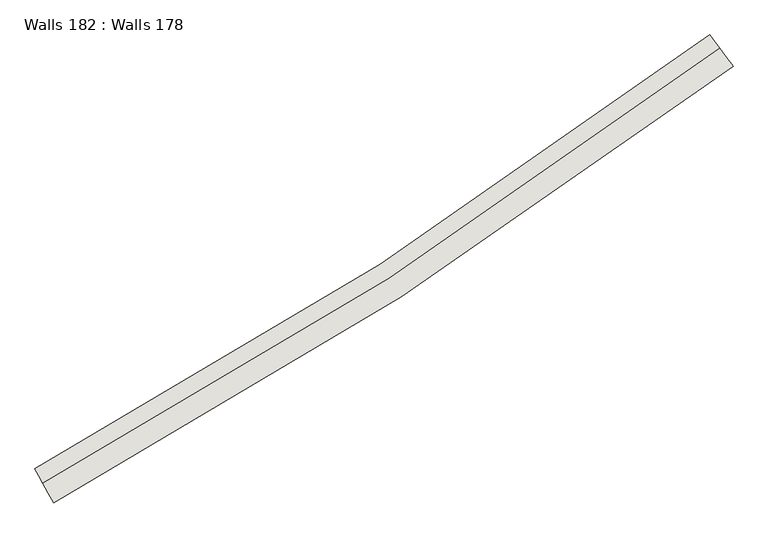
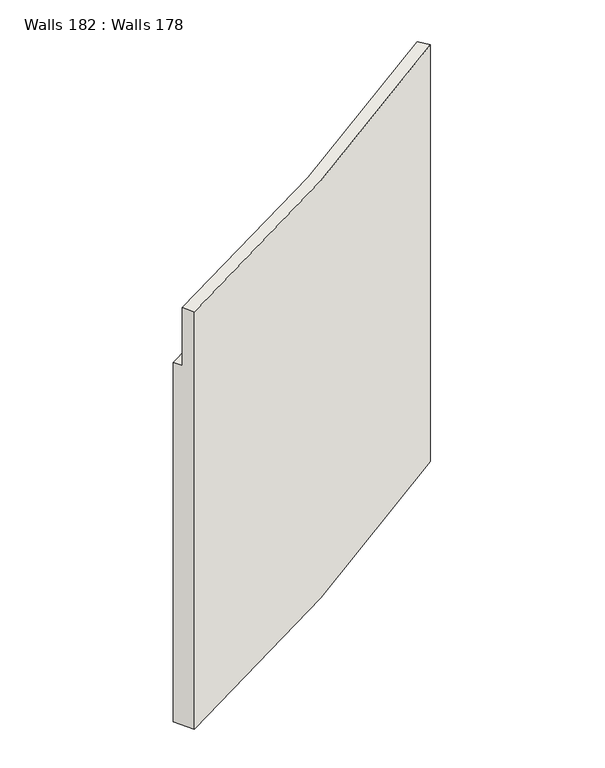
"""IFC4 building model written with IfcOpenShell, lengths in millimetres: wall geometry, Walls 182 : Walls 178."""

from ifc_helpers import new_model, si_unit, frame, origin, place, context, project, spatial, source, transform, mapped, element, save
from ifc_brep_helpers import plane_surface, spline_curve, spline_surface, advanced_brep


def walls_182_walls_178_b55e0ced(model_context):
    return source(origin(), model_context, "Body", "AdvancedBrep", [
        advanced_brep(
        [(266677.7880216, 196243.5262786, 649219.6701926), (266606.0564185, 196375.2630507, 649219.6701926), (266606.0564185, 196375.2630507, 643039.6701926), (266773.430159, 196067.8772491, 643039.6701926), (266773.430159, 196067.8772491, 650219.6701926), (266677.7880216, 196243.5262786, 650219.6701926), (272755.8917328, 200149.8848743, 649299.6708418), (272755.8917328, 200149.8848743, 650299.6708418), (272875.9439253, 199989.9240319, 650299.6708418), (272875.9439253, 199989.9240319, 643130.1185189), (272665.8525884, 200269.855506, 643130.1185189), (272665.8525884, 200269.855506, 649299.6708418)],
        [
            (0, 1),
            (1, 2),
            (2, 3),
            (3, 4),
            (4, 5),
            (5, 0),
            (6, 7),
            (7, 8),
            (8, 9),
            (9, 10),
            (10, 11),
            (11, 6),
            (11, 1, spline_curve(3, [(272665.8525884, 200269.855506, 649299.6708418), (271704.790071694, 199548.568592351, 649286.33740016), (270717.531544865, 198862.186428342, 649273.00395884), (268695.824161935, 197562.847952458, 649246.33707556), (267661.375306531, 196949.891641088, 649233.00363424), (266606.0564185, 196375.2630507, 649219.6701926)], [4, 2, 4], [0.0, 11.842973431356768, 23.685946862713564])),
            (0, 6, spline_curve(3, [(266677.7880216, 196243.5262786, 649219.6701926), (267736.295184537, 196819.890906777, 649233.00363424), (268773.869262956, 197434.699050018, 649246.33707556), (270801.684522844, 198737.963019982, 649273.00395884), (271791.925703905, 199426.418846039, 649286.33740016), (272755.8917328, 200149.8848743, 649299.6708418)], [4, 2, 4], [0.0, 11.842973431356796, 23.685946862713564])),
            (10, 2, spline_curve(3, [(272665.8525884, 200269.855506, 643130.1185189), (271704.790071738, 199548.568592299, 643115.043797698), (270717.531544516, 198862.186428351, 643099.969076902), (268695.824162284, 197562.847952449, 643069.819634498), (267661.375306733, 196949.891640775, 643054.744913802), (266606.0564185, 196375.2630507, 643039.6701926)], [4, 2, 4], [0.0, 11.825211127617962, 23.650422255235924])),
            (9, 3, spline_curve(3, [(272875.9439253, 199989.9240319, 643130.1185189), (271908.106546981, 199263.552517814, 643115.043797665), (270913.888493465, 198572.331808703, 643099.969076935), (268877.929397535, 197263.833847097, 643069.819634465), (267836.188354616, 196646.55659491, 643054.744913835), (266773.430159, 196067.8772491, 643039.6701926)], [4, 2, 4], [0.0, 11.866989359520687, 23.733978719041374])),
            (8, 4, spline_curve(3, [(272875.9439253, 199989.9240319, 650299.6708418), (271908.106547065, 199263.55251764, 650286.337400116), (270913.88849371, 198572.331808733, 650273.003958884), (268877.92939729, 197263.833847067, 650246.337075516), (267836.18835447, 196646.556594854, 650233.003634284), (266773.430159, 196067.8772491, 650219.6701926)], [4, 2, 4], [0.0, 11.908559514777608, 23.817119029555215])),
            (7, 5, spline_curve(3, [(272755.8917328, 200149.8848743, 650299.6708418), (271791.925704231, 199426.41884642, 650286.33740018), (270801.684523, 198737.963019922, 650273.00395882), (268773.8692628, 197434.699050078, 650246.33707558), (267736.295184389, 196819.890907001, 650233.00363422), (266677.7880216, 196243.5262786, 650219.6701926)], [4, 2, 4], [0.0, 11.884647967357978, 23.769295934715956])),
        ],
        [
            plane_surface(frame((266685.7581997, 196228.8888595, 647493.0035259), z_axis=(-0.8782451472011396, -0.4782106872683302, 0.0), x_axis=(-0.4782106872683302, 0.8782451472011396, 0.0))),
            plane_surface(frame((272765.8960822, 200136.5548041, 647576.4867342), z_axis=(0.7998042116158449, 0.6002609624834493, 1.6434484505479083e-12), x_axis=(-0.6002609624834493, 0.7998042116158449, 0.0))),
            spline_surface(3, 3, [[(272755.8917328, 200149.8848743, 649299.6708418), (271791.925704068, 199426.418846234, 649286.337400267), (270801.684522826, 198737.963019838, 649273.003958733), (268773.869262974, 197434.699050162, 649246.337075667), (267736.295184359, 196819.890906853, 649233.003634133), (266677.7880216, 196243.5262786, 649219.6701926)], [(272740.885208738, 200169.87997959, 649299.6708418), (271777.403098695, 199446.777137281, 649286.337400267), (270787.659026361, 198758.666921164, 649273.003958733), (268760.861746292, 197456.057200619, 649246.337075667), (267723.80853808, 196841.55769586, 649233.003634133), (266665.832754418, 196265.48240728, 649219.6701926)], [(272725.878684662, 200189.87508481, 649299.6708418), (271762.880493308, 199467.135428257, 649286.337400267), (270773.63353027, 198779.370822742, 649273.003958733), (268747.854229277, 197477.415350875, 649246.337075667), (267711.321891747, 196863.224484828, 649233.003634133), (266653.877487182, 196287.43853592, 649219.6701926)], [(272695.865636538, 200229.86529539, 649299.6708418), (271733.835282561, 199507.852010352, 649286.337400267), (270745.58253734, 198820.778625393, 649273.003958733), (268721.839195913, 197520.13165179, 649246.337075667), (267686.348599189, 196906.558062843, 649233.003634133), (266629.966952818, 196331.35079328, 649219.6701926)], [(272680.859112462, 200249.86040071, 649299.6708418), (271719.312677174, 199528.210301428, 649286.337400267), (270731.557041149, 198841.482526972, 649273.003958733), (268708.831678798, 197541.489802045, 649246.337075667), (267673.861952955, 196928.22485191, 649233.003634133), (266618.011685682, 196353.30692202, 649219.6701926)], [(272665.8525884, 200269.855506, 649299.6708418), (271704.7900718, 199548.568592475, 649286.337400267), (270717.531544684, 198862.186428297, 649273.003958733), (268695.824162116, 197562.847952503, 649246.337075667), (267661.375306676, 196949.891640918, 649233.003634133), (266606.0564185, 196375.2630507, 649219.6701926)]], [4, 2, 4], [4, 2, 4], [0.0, 0.24606299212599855, 0.4921259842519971], [0.0, 11.842973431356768, 23.685946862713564]),
            spline_surface(3, 3, [[(272665.8525884, 200269.855506, 649299.6708418), (271704.7900718, 199548.568592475, 649286.337400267), (270717.531544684, 198862.186428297, 649273.003958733), (268695.824162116, 197562.847952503, 649246.337075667), (267661.375306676, 196949.891640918, 649233.003634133), (266606.0564185, 196375.2630507, 649219.6701926)], [(272665.8525884, 200269.855506, 648271.412121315), (271704.7900718, 199548.568592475, 648257.788466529), (270717.531544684, 198862.186428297, 648244.164811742), (268695.824162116, 197562.847952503, 648216.917502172), (267661.375306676, 196949.891640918, 648203.293847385), (266606.0564185, 196375.2630507, 648189.670192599)], [(272665.8525884, 200269.855506, 647243.153400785), (271704.7900718, 199548.568592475, 647229.239532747), (270717.531544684, 198862.186428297, 647215.325664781), (268695.824162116, 197562.847952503, 647187.497928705), (267661.375306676, 196949.891640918, 647173.584060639), (266606.0564185, 196375.2630507, 647159.670192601)], [(272665.8525884, 200269.855506, 645186.635959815), (271704.7900718, 199548.568592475, 645172.141665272), (270717.531544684, 198862.186428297, 645157.6473708), (268695.824162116, 197562.847952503, 645128.658781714), (267661.375306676, 196949.891640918, 645114.164487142), (266606.0564185, 196375.2630507, 645099.670192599)], [(272665.8525884, 200269.855506, 644158.377239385), (271704.7900718, 199548.568592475, 644143.592731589), (270717.531544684, 198862.186428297, 644128.808223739), (268695.824162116, 197562.847952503, 644099.239208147), (267661.375306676, 196949.891640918, 644084.454700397), (266606.0564185, 196375.2630507, 644069.670192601)], [(272665.8525884, 200269.855506, 643130.1185189), (271704.7900718, 199548.568592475, 643115.043797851), (270717.531544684, 198862.186428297, 643099.969076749), (268695.824162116, 197562.847952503, 643069.819634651), (267661.375306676, 196949.891640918, 643054.744913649), (266606.0564185, 196375.2630507, 643039.6701926)]], [4, 2, 4], [4, 2, 4], [0.0, 10.129225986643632, 20.258451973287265], [0.0, 11.825211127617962, 23.650422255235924]),
            spline_surface(3, 3, [[(272665.8525884, 200269.855506, 643130.1185189), (271704.7900718, 199548.568592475, 643115.043797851), (270717.531544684, 198862.186428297, 643099.969076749), (268695.824162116, 197562.847952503, 643069.819634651), (267661.375306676, 196949.891640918, 643054.744913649), (266606.0564185, 196375.2630507, 643039.6701926)], [(272700.867811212, 200223.200260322, 643130.1185189), (271738.676151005, 199501.065913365, 643115.043797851), (270750.257703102, 198813.877325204, 643099.969076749), (268726.175034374, 197513.012268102, 643069.819634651), (267690.51081466, 196899.3357999, 643054.744913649), (266633.952041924, 196324.03208378, 643039.6701926)], [(272735.883033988, 200176.545014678, 643130.1185189), (271772.562230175, 199453.563234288, 643115.043797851), (270782.983860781, 198765.568221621, 643099.969076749), (268756.525907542, 197463.176584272, 643069.819634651), (267719.646322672, 196848.779958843, 643054.744913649), (266661.847665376, 196272.80111682, 643039.6701926)], [(272805.913479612, 200083.234523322, 643130.1185189), (271840.334388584, 199358.557876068, 643115.043797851), (270848.436177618, 198668.950015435, 643099.969076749), (268817.227652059, 197363.505215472, 643069.819634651), (267777.917338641, 196747.668276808, 643054.744913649), (266717.638912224, 196170.33918298, 643039.6701926)], [(272840.928702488, 200036.579277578, 643130.1185189), (271874.220467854, 199311.05519689, 643115.043797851), (270881.162335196, 198620.640911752, 643099.969076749), (268847.578525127, 197313.669531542, 643069.819634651), (267807.052846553, 196697.112435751, 643054.744913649), (266745.534535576, 196119.10821602, 643039.6701926)], [(272875.9439253, 199989.9240319, 643130.1185189), (271908.106547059, 199263.55251778, 643115.043797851), (270913.888493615, 198572.331808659, 643099.969076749), (268877.929397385, 197263.833847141, 643069.819634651), (267836.188354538, 196646.556594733, 643054.744913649), (266773.430159, 196067.8772491, 643039.6701926)]], [4, 2, 4], [4, 2, 4], [0.0, 0.5741469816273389, 1.1482939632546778], [0.0, 11.866989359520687, 23.733978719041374]),
            spline_surface(3, 3, [[(272875.9439253, 199989.9240319, 643130.1185189), (271908.106547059, 199263.55251778, 643115.043797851), (270913.888493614, 198572.331808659, 643099.969076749), (268877.929397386, 197263.833847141, 643069.819634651), (267836.188354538, 196646.556594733, 643054.744913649), (266773.430159, 196067.8772491, 643039.6701926)], [(272875.9439253, 199989.9240319, 644325.043906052), (271908.106547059, 199263.55251778, 644310.259398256), (270913.888493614, 198572.331808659, 644295.474890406), (268877.929397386, 197263.833847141, 644265.905874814), (267836.188354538, 196646.556594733, 644251.121367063), (266773.430159, 196067.8772491, 644236.336859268)], [(272875.9439253, 199989.9240319, 645519.969293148), (271908.106547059, 199263.55251778, 645505.474998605), (270913.888493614, 198572.331808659, 645490.980704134), (268877.929397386, 197263.833847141, 645461.992115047), (267836.188354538, 196646.556594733, 645447.497820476), (266773.430159, 196067.8772491, 645433.003525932)], [(272875.9439253, 199989.9240319, 647909.820067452), (271908.106547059, 199263.55251778, 647895.906199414), (270913.888493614, 198572.331808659, 647881.992331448), (268877.929397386, 197263.833847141, 647854.164595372), (267836.188354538, 196646.556594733, 647840.250727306), (266773.430159, 196067.8772491, 647826.336859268)], [(272875.9439253, 199989.9240319, 649104.745454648), (271908.106547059, 199263.55251778, 649091.121799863), (270913.888493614, 198572.331808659, 649077.498145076), (268877.929397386, 197263.833847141, 649050.250835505), (267836.188354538, 196646.556594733, 649036.627180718), (266773.430159, 196067.8772491, 649023.003525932)], [(272875.9439253, 199989.9240319, 650299.6708418), (271908.106547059, 199263.55251778, 650286.337400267), (270913.888493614, 198572.331808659, 650273.003958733), (268877.929397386, 197263.833847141, 650246.337075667), (267836.188354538, 196646.556594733, 650233.003634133), (266773.430159, 196067.8772491, 650219.6701926)]], [4, 2, 4], [4, 2, 4], [0.0, 11.769645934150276, 23.539291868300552], [0.0, 11.908559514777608, 23.817119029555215]),
            spline_surface(3, 3, [[(272875.9439253, 199989.9240319, 650299.6708418), (271908.106547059, 199263.55251778, 650286.337400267), (270913.888493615, 198572.331808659, 650273.003958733), (268877.929397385, 197263.833847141, 650246.337075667), (267836.188354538, 196646.556594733, 650233.003634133), (266773.430159, 196067.8772491, 650219.6701926)], [(272855.935226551, 200016.584172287, 650299.6708418), (271888.743073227, 199290.696905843, 650286.337400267), (270895.187831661, 198599.937010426, 650273.003958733), (268860.586041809, 197292.311381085, 650246.337075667), (267819.539492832, 196675.445646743, 650233.003634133), (266757.489802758, 196097.15208734, 650219.6701926)], [(272835.926527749, 200043.244312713, 650299.6708418), (271869.379599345, 199317.841293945, 650286.337400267), (270876.487170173, 198627.542212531, 650273.003958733), (268843.242685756, 197320.788914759, 650246.337075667), (267802.890631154, 196704.334698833, 650233.003634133), (266741.549446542, 196126.42692566, 650219.6701926)], [(272795.909130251, 200096.564593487, 650299.6708418), (271830.652651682, 199372.13007007, 650286.337400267), (270839.085846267, 198682.752616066, 650273.003958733), (268808.555974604, 197377.743982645, 650246.337075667), (267769.592907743, 196762.112802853, 650233.003634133), (266709.668734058, 196184.97660214, 650219.6701926)], [(272775.900431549, 200123.224733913, 650299.6708418), (271811.289177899, 199399.274458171, 650286.337400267), (270820.385184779, 198710.35781807, 650273.003958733), (268791.21261855, 197406.221516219, 650246.337075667), (267752.944046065, 196791.001854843, 650233.003634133), (266693.728377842, 196214.25144036, 650219.6701926)], [(272755.8917328, 200149.8848743, 650299.6708418), (271791.925704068, 199426.418846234, 650286.337400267), (270801.684522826, 198737.963019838, 650273.003958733), (268773.869262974, 197434.699050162, 650246.337075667), (267736.295184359, 196819.890906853, 650233.003634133), (266677.7880216, 196243.5262786, 650219.6701926)]], [4, 2, 4], [4, 2, 4], [0.0, 0.3280839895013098, 0.6561679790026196], [0.0, 11.884647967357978, 23.769295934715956]),
            spline_surface(3, 3, [[(272755.8917328, 200149.8848743, 650299.6708418), (271791.925704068, 199426.418846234, 650286.337400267), (270801.684522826, 198737.963019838, 650273.003958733), (268773.869262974, 197434.699050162, 650246.337075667), (267736.295184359, 196819.890906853, 650233.003634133), (266677.7880216, 196243.5262786, 650219.6701926)], [(272755.8917328, 200149.8848743, 650133.004175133), (271791.925704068, 199426.418846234, 650119.670733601), (270801.684522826, 198737.963019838, 650106.337292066), (268773.869262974, 197434.699050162, 650079.670409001), (267736.295184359, 196819.890906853, 650066.336967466), (266677.7880216, 196243.5262786, 650053.003525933)], [(272755.8917328, 200149.8848743, 649966.337508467), (271791.925704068, 199426.418846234, 649953.004066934), (270801.684522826, 198737.963019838, 649939.670625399), (268773.869262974, 197434.699050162, 649913.003742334), (267736.295184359, 196819.890906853, 649899.670300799), (266677.7880216, 196243.5262786, 649886.336859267)], [(272755.8917328, 200149.8848743, 649633.004175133), (271791.925704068, 199426.418846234, 649619.670733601), (270801.684522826, 198737.963019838, 649606.337292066), (268773.869262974, 197434.699050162, 649579.670409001), (267736.295184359, 196819.890906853, 649566.336967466), (266677.7880216, 196243.5262786, 649553.003525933)], [(272755.8917328, 200149.8848743, 649466.337508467), (271791.925704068, 199426.418846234, 649453.004066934), (270801.684522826, 198737.963019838, 649439.670625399), (268773.869262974, 197434.699050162, 649413.003742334), (267736.295184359, 196819.890906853, 649399.670300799), (266677.7880216, 196243.5262786, 649386.336859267)], [(272755.8917328, 200149.8848743, 649299.6708418), (271791.925704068, 199426.418846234, 649286.337400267), (270801.684522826, 198737.963019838, 649273.003958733), (268773.869262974, 197434.699050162, 649246.337075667), (267736.295184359, 196819.890906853, 649233.003634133), (266677.7880216, 196243.5262786, 649219.6701926)]], [4, 2, 4], [4, 2, 4], [0.0, 1.6404199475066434, 3.280839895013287], [0.0, 11.860833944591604, 23.72166788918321]),
        ],
        [
            (0, [[1, 2, 3, 4, 5, 6]]),
            (1, [[7, 8, 9, 10, 11, 12]]),
            (2, [[-12, 13, -1, 14]]),
            (3, [[-11, 15, -2, -13]]),
            (4, [[-10, 16, -3, -15]]),
            (5, [[-9, 17, -4, -16]]),
            (6, [[-8, 18, -5, -17]]),
            (7, [[-7, -14, -6, -18]]),
        ],
    ),
    ])


if __name__ == "__main__":
    model = new_model("IFC4")
    model_context = context("Model", 3, world=origin())
    ifc_project = project(units=[si_unit("LENGTHUNIT", "METRE", prefix="MILLI")], contexts=[model_context])
    site = spatial("IfcSite", under=ifc_project)
    building = spatial("IfcBuilding", under=site)
    placement = place(None, origin())
    walls_182_walls_178_shape = walls_182_walls_178_b55e0ced(model_context)
    element("IfcWall", 1, ObjectType="Walls 182 : Walls 178", at=placement, inside=building, context=model_context, shape_type="MappedRepresentation", body=[
        mapped(walls_182_walls_178_shape, transform((0.0, 0.0, 0.0), x_axis=(1.0, 0.0, 0.0), y_axis=(0.0, 1.0, 0.0), z_axis=(0.0, 0.0, 1.0))),
    ])
    save(model, "model.ifc")
